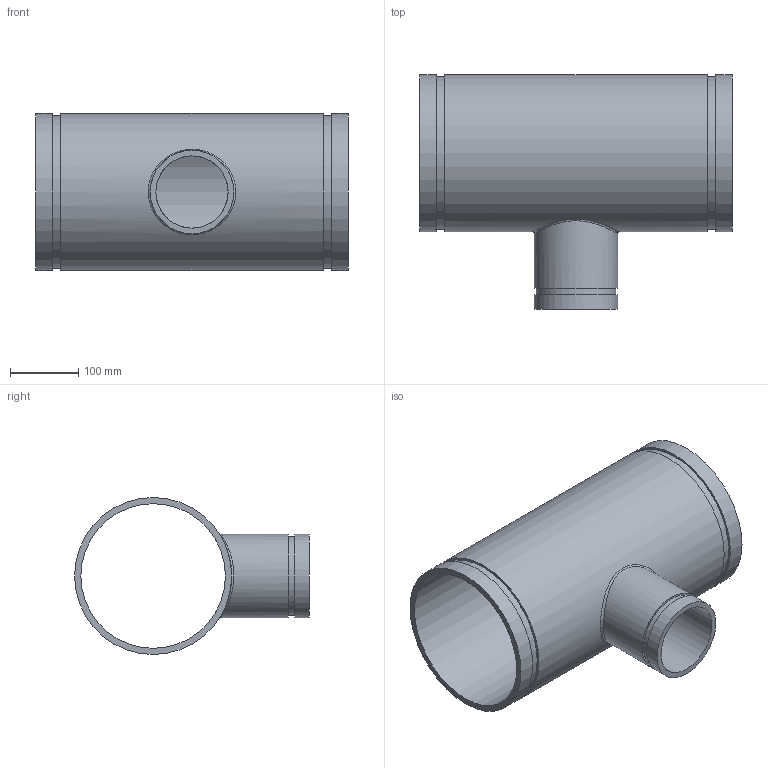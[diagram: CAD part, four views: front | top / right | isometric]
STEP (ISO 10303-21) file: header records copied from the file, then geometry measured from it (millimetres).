
FILE_DESCRIPTION(/* description */ ('VIC REDUCING TEE No 25-C','CAx-IF Rec.Pracs.---Representation and Presentation of Product Manufacturing Information (PMI)---4.0---2014-10-13'),/* implementation_level */ '2;1');
FILE_NAME(/* name */ 'C:\Users\Vjadhav\AppData\Roaming\Autodesk\ApplicationPlugins\Back Up\Victaulic_AWWA_Tee Reducing_No 25-C (DRG)\Victaulic_AWWA_Tee Reducing_No 25-C (DRG)_08.0x04.0 (200x100).stp',/* time_stamp */ '2020-08-18T18:17:45+06:00',/* author */ ('CORINNE GRAY'),/* organization */ ('Victaulic'),/* preprocessor_version */ 'ST-DEVELOPER v17.2',/* originating_system */ 'Autodesk Inventor 2019',/* authorisation */ '');
FILE_SCHEMA (('AP242_MANAGED_MODEL_BASED_3D_ENGINEERING_MIM_LF { 1 0 10303 442 1 1 4 }'));
Length unit declared in the file: inch
Products named in the file (1): 25C-08.0x04.0
Bounding box: 457.2 x 343.54 x 229.87 mm (x, y, z)
Volume: 3096309.1 mm3; surface area: 729296.5 mm2
Topology: 1 solids, 1 shells, 20 faces, 44 edges, 33 vertices
Faces by surface type: cylinder 10, plane 9, bspline 1
Full cylindrical faces by diameter (mm): 105.664 x1, 115.9 x1, 121.92 x2, 211.582 x1, 223.037 x2, 229.87 x3
Entity records: 975 total; most frequent: CARTESIAN_POINT 351, DIRECTION 135, ORIENTED_EDGE 90, AXIS2_PLACEMENT_3D 62, EDGE_CURVE 45, VERTEX_POINT 34, EDGE_LOOP 31, CIRCLE 29
